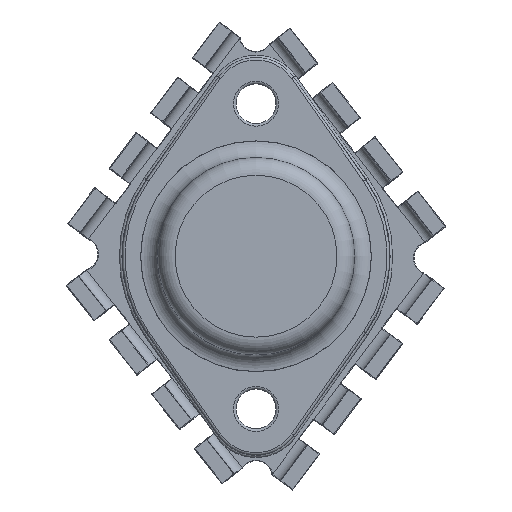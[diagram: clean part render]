
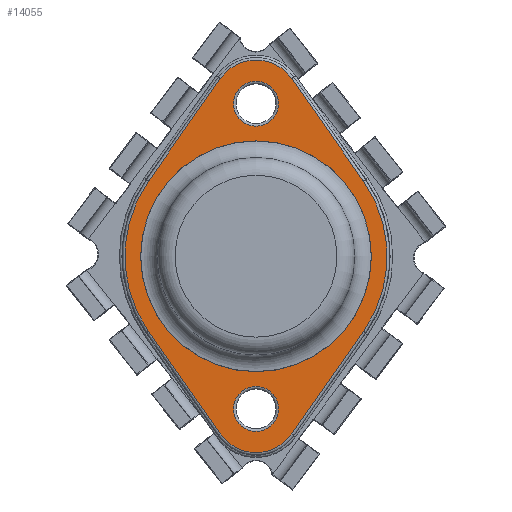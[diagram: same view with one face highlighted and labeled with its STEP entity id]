
A CAD part, top view. The second image highlights one B-rep face of the part: STEP entity #14055.
In plain terms, the highlighted planar face has unit normal (0, 0, 1).
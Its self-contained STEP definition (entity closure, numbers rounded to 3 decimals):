
#1457=FACE_BOUND('',#3488,.T.);
#1458=FACE_BOUND('',#3489,.T.);
#1459=FACE_BOUND('',#3490,.T.);
#1498=LINE('',#19945,#1988);
#1499=LINE('',#19949,#1989);
#1500=LINE('',#19953,#1990);
#1501=LINE('',#19957,#1991);
#1988=VECTOR('',#16553,10.);
#1989=VECTOR('',#16556,10.);
#1990=VECTOR('',#16559,10.);
#1991=VECTOR('',#16562,10.);
#2464=PLANE('',#15010);
#2591=FACE_OUTER_BOUND('',#3487,.T.);
#3487=EDGE_LOOP('',(#8821,#8822,#8823,#8824,#8825,#8826,#8827,#8828));
#3488=EDGE_LOOP('',(#8829));
#3489=EDGE_LOOP('',(#8830,#8831));
#3490=EDGE_LOOP('',(#8832,#8833));
#4421=CIRCLE('',#15007,2.22);
#4423=CIRCLE('',#15009,2.22);
#4424=CIRCLE('',#15011,12.96);
#4425=CIRCLE('',#15012,4.32);
#4426=CIRCLE('',#15013,12.96);
#4427=CIRCLE('',#15014,4.32);
#4428=CIRCLE('',#15015,11.26);
#4429=CIRCLE('',#15016,2.22);
#4430=CIRCLE('',#15017,2.22);
#5326=VERTEX_POINT('',#19937);
#5327=VERTEX_POINT('',#19938);
#5328=VERTEX_POINT('',#19943);
#5329=VERTEX_POINT('',#19944);
#5330=VERTEX_POINT('',#19946);
#5331=VERTEX_POINT('',#19948);
#5332=VERTEX_POINT('',#19950);
#5333=VERTEX_POINT('',#19952);
#5334=VERTEX_POINT('',#19954);
#5335=VERTEX_POINT('',#19956);
#5336=VERTEX_POINT('',#19959);
#5337=VERTEX_POINT('',#19961);
#5338=VERTEX_POINT('',#19962);
#6622=EDGE_CURVE('',#5326,#5327,#4421,.T.);
#6624=EDGE_CURVE('',#5327,#5326,#4423,.T.);
#6625=EDGE_CURVE('',#5328,#5329,#1498,.T.);
#6626=EDGE_CURVE('',#5330,#5328,#4424,.T.);
#6627=EDGE_CURVE('',#5331,#5330,#1499,.T.);
#6628=EDGE_CURVE('',#5332,#5331,#4425,.T.);
#6629=EDGE_CURVE('',#5333,#5332,#1500,.T.);
#6630=EDGE_CURVE('',#5334,#5333,#4426,.T.);
#6631=EDGE_CURVE('',#5335,#5334,#1501,.T.);
#6632=EDGE_CURVE('',#5329,#5335,#4427,.T.);
#6633=EDGE_CURVE('',#5336,#5336,#4428,.T.);
#6634=EDGE_CURVE('',#5337,#5338,#4429,.T.);
#6635=EDGE_CURVE('',#5338,#5337,#4430,.T.);
#8821=ORIENTED_EDGE('',*,*,#6625,.F.);
#8822=ORIENTED_EDGE('',*,*,#6626,.F.);
#8823=ORIENTED_EDGE('',*,*,#6627,.F.);
#8824=ORIENTED_EDGE('',*,*,#6628,.F.);
#8825=ORIENTED_EDGE('',*,*,#6629,.F.);
#8826=ORIENTED_EDGE('',*,*,#6630,.F.);
#8827=ORIENTED_EDGE('',*,*,#6631,.F.);
#8828=ORIENTED_EDGE('',*,*,#6632,.F.);
#8829=ORIENTED_EDGE('',*,*,#6633,.F.);
#8830=ORIENTED_EDGE('',*,*,#6634,.F.);
#8831=ORIENTED_EDGE('',*,*,#6635,.F.);
#8832=ORIENTED_EDGE('',*,*,#6622,.F.);
#8833=ORIENTED_EDGE('',*,*,#6624,.F.);
#14055=ADVANCED_FACE('',(#2591,#1457,#1458,#1459),#2464,.T.);
#15007=AXIS2_PLACEMENT_3D('',#19939,#16545,#16546);
#15009=AXIS2_PLACEMENT_3D('',#19941,#16549,#16550);
#15010=AXIS2_PLACEMENT_3D('',#19942,#16551,#16552);
#15011=AXIS2_PLACEMENT_3D('',#19947,#16554,#16555);
#15012=AXIS2_PLACEMENT_3D('',#19951,#16557,#16558);
#15013=AXIS2_PLACEMENT_3D('',#19955,#16560,#16561);
#15014=AXIS2_PLACEMENT_3D('',#19958,#16563,#16564);
#15015=AXIS2_PLACEMENT_3D('',#19960,#16565,#16566);
#15016=AXIS2_PLACEMENT_3D('',#19963,#16567,#16568);
#15017=AXIS2_PLACEMENT_3D('',#19964,#16569,#16570);
#16545=DIRECTION('center_axis',(0.,0.,1.));
#16546=DIRECTION('ref_axis',(1.,0.,0.));
#16549=DIRECTION('center_axis',(0.,0.,1.));
#16550=DIRECTION('ref_axis',(1.,0.,0.));
#16551=DIRECTION('center_axis',(0.,0.,1.));
#16552=DIRECTION('ref_axis',(1.,0.,0.));
#16553=DIRECTION('',(0.573,0.819,0.));
#16554=DIRECTION('center_axis',(0.,0.,-1.));
#16555=DIRECTION('ref_axis',(-1.,0.,0.));
#16556=DIRECTION('',(-0.573,0.819,0.));
#16557=DIRECTION('center_axis',(0.,0.,-1.));
#16558=DIRECTION('ref_axis',(0.,-1.,0.));
#16559=DIRECTION('',(-0.573,-0.819,0.));
#16560=DIRECTION('center_axis',(0.,0.,-1.));
#16561=DIRECTION('ref_axis',(1.,0.,0.));
#16562=DIRECTION('',(0.573,-0.819,0.));
#16563=DIRECTION('center_axis',(0.,0.,-1.));
#16564=DIRECTION('ref_axis',(0.,1.,0.));
#16565=DIRECTION('center_axis',(0.,0.,1.));
#16566=DIRECTION('ref_axis',(-1.,0.,0.));
#16567=DIRECTION('center_axis',(0.,0.,1.));
#16568=DIRECTION('ref_axis',(1.,0.,0.));
#16569=DIRECTION('center_axis',(0.,0.,1.));
#16570=DIRECTION('ref_axis',(1.,0.,0.));
#19937=CARTESIAN_POINT('',(3.243,-13.26,3.65));
#19938=CARTESIAN_POINT('',(7.683,-13.26,3.65));
#19939=CARTESIAN_POINT('Origin',(5.463,-13.26,3.65));
#19941=CARTESIAN_POINT('Origin',(5.463,-13.26,3.65));
#19942=CARTESIAN_POINT('Origin',(5.463,1.815,3.65));
#19943=CARTESIAN_POINT('',(-5.158,9.243,3.65));
#19944=CARTESIAN_POINT('',(1.922,19.366,3.65));
#19945=CARTESIAN_POINT('',(-1.618,14.304,3.65));
#19946=CARTESIAN_POINT('',(-5.158,-5.613,3.65));
#19947=CARTESIAN_POINT('Origin',(5.463,1.815,3.65));
#19948=CARTESIAN_POINT('',(1.922,-15.736,3.65));
#19949=CARTESIAN_POINT('',(-5.158,-5.613,3.65));
#19950=CARTESIAN_POINT('',(9.003,-15.736,3.65));
#19951=CARTESIAN_POINT('Origin',(5.463,-13.26,3.65));
#19952=CARTESIAN_POINT('',(16.083,-5.613,3.65));
#19953=CARTESIAN_POINT('',(12.543,-10.674,3.65));
#19954=CARTESIAN_POINT('',(16.083,9.243,3.65));
#19955=CARTESIAN_POINT('Origin',(5.463,1.815,3.65));
#19956=CARTESIAN_POINT('',(9.003,19.366,3.65));
#19957=CARTESIAN_POINT('',(16.083,9.243,3.65));
#19958=CARTESIAN_POINT('Origin',(5.463,16.89,3.65));
#19959=CARTESIAN_POINT('',(16.723,1.815,3.65));
#19960=CARTESIAN_POINT('Origin',(5.463,1.815,3.65));
#19961=CARTESIAN_POINT('',(3.243,16.89,3.65));
#19962=CARTESIAN_POINT('',(7.683,16.89,3.65));
#19963=CARTESIAN_POINT('Origin',(5.463,16.89,3.65));
#19964=CARTESIAN_POINT('Origin',(5.463,16.89,3.65));
